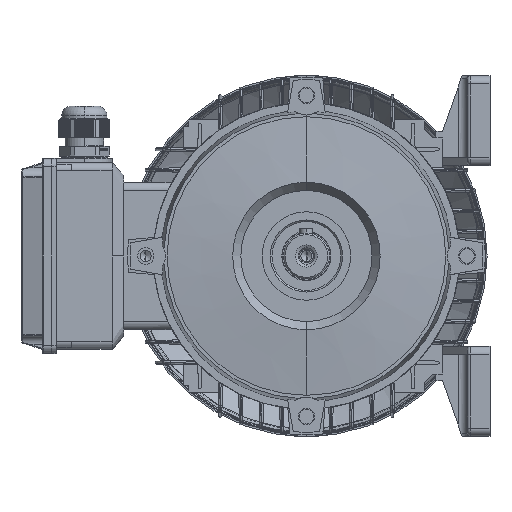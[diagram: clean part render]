
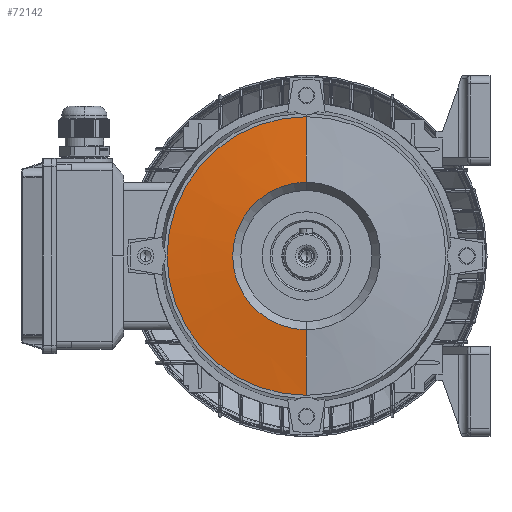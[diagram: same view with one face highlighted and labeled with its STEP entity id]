
A CAD part, left-side view. The second image highlights one B-rep face of the part: STEP entity #72142.
In plain terms, the highlighted conical face has half-angle 84.289 degrees and reference radius 85 mm.
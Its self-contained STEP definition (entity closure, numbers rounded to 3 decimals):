
#71164 = VERTEX_POINT ( 'NONE', #73731 ) ;
#71176 = VERTEX_POINT ( 'NONE', #73736 ) ;
#71180 = VERTEX_POINT ( 'NONE', #73735 ) ;
#71416 = ORIENTED_EDGE ( 'NONE', *, *, #72097, .F. ) ;
#71664 = VERTEX_POINT ( 'NONE', #73753 ) ;
#71674 = EDGE_CURVE ( 'NONE', #71664, #71176, #73776, .T. ) ;
#71933 = ORIENTED_EDGE ( 'NONE', *, *, #73040, .F. ) ;
#72097 = EDGE_CURVE ( 'NONE', #71164, #71180, #73843, .T. ) ;
#72123 = ORIENTED_EDGE ( 'NONE', *, *, #72136, .T. ) ;
#72130 = EDGE_LOOP ( 'NONE', ( #71416, #72123, #126485, #71933 ) ) ;
#72136 = EDGE_CURVE ( 'NONE', #71164, #71664, #73879, .T. ) ;
#72142 = ADVANCED_FACE ( 'NONE', ( #74249 ), #74248, .T. ) ;
#73040 = EDGE_CURVE ( 'NONE', #71180, #71176, #74345, .T. ) ;
#73731 = CARTESIAN_POINT ( 'NONE',  ( -12., 0., 45. ) ) ;
#73735 = CARTESIAN_POINT ( 'NONE',  ( -12., 0., -45. ) ) ;
#73736 = CARTESIAN_POINT ( 'NONE',  ( -8., 0., -85. ) ) ;
#73753 = CARTESIAN_POINT ( 'NONE',  ( -8., 0., 85. ) ) ;
#73776 = CIRCLE ( 'NONE', #73833, 85. ) ;
#73829 = DIRECTION ( 'NONE',  ( 0., 0., 1. ) ) ;
#73830 = DIRECTION ( 'NONE',  ( -1., 0., 0. ) ) ;
#73833 = AXIS2_PLACEMENT_3D ( 'NONE', #73838, #73830, #73829 ) ;
#73838 = CARTESIAN_POINT ( 'NONE',  ( -8., 0., 0. ) ) ;
#73843 = CIRCLE ( 'NONE', #73883, 45. ) ;
#73844 = CARTESIAN_POINT ( 'NONE',  ( -12., 0., 0. ) ) ;
#73873 = DIRECTION ( 'NONE',  ( 0.1, 0., 0.995 ) ) ;
#73874 = VECTOR ( 'NONE', #73873, 1000. ) ;
#73878 = CARTESIAN_POINT ( 'NONE',  ( -8., 0., 85. ) ) ;
#73879 = LINE ( 'NONE', #73878, #73874 ) ;
#73881 = DIRECTION ( 'NONE',  ( 0., 0., 1. ) ) ;
#73882 = DIRECTION ( 'NONE',  ( -1., 0., 0. ) ) ;
#73883 = AXIS2_PLACEMENT_3D ( 'NONE', #73844, #73882, #73881 ) ;
#74244 = DIRECTION ( 'NONE',  ( 0., 0., -1. ) ) ;
#74245 = DIRECTION ( 'NONE',  ( 1., 0., 0. ) ) ;
#74246 = CARTESIAN_POINT ( 'NONE',  ( -8., 0., 0. ) ) ;
#74248 = CONICAL_SURFACE ( 'NONE', #74250, 85., 1.471 ) ;
#74249 = FACE_OUTER_BOUND ( 'NONE', #72130, .T. ) ;
#74250 = AXIS2_PLACEMENT_3D ( 'NONE', #74246, #74245, #74244 ) ;
#74342 = DIRECTION ( 'NONE',  ( 0.1, 0., -0.995 ) ) ;
#74343 = VECTOR ( 'NONE', #74342, 1000. ) ;
#74344 = CARTESIAN_POINT ( 'NONE',  ( -8., 0., -85. ) ) ;
#74345 = LINE ( 'NONE', #74344, #74343 ) ;
#126485 = ORIENTED_EDGE ( 'NONE', *, *, #71674, .T. ) ;
